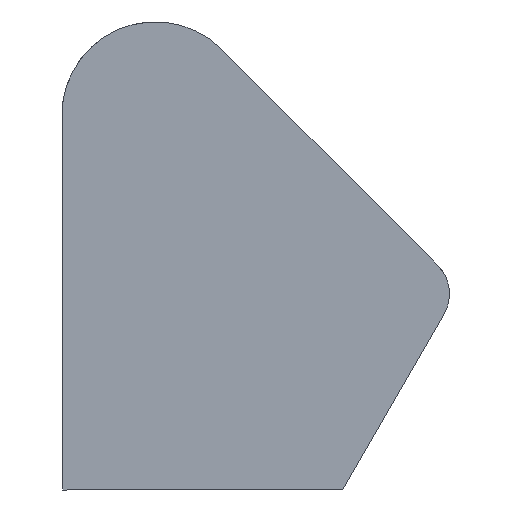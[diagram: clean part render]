
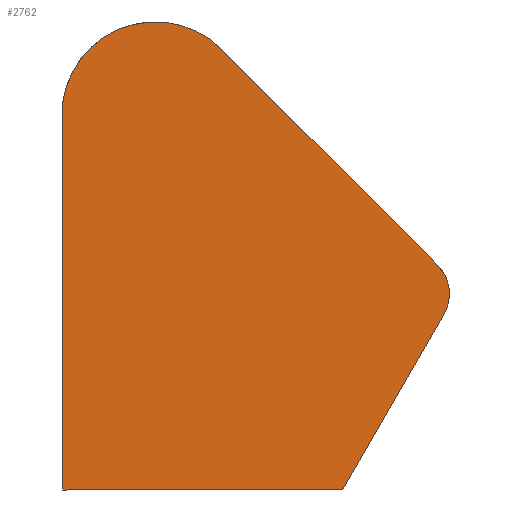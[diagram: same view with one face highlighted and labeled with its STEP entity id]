
A CAD part, left-side view. The second image highlights one B-rep face of the part: STEP entity #2762.
In plain terms, the highlighted planar face has unit normal (-1, 0, 0).
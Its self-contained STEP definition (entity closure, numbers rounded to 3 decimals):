
#38 = DIRECTION ( 'NONE',  ( -1., 0., 0. ) ) ;
#246 = ORIENTED_EDGE ( 'NONE', *, *, #4107, .F. ) ;
#366 = VECTOR ( 'NONE', #1842, 1000. ) ;
#404 = LINE ( 'NONE', #643, #4027 ) ;
#428 = PLANE ( 'NONE',  #4229 ) ;
#468 = FACE_OUTER_BOUND ( 'NONE', #2359, .T. ) ;
#643 = CARTESIAN_POINT ( 'NONE',  ( -70., -16.263, 16.264 ) ) ;
#715 = AXIS2_PLACEMENT_3D ( 'NONE', #4046, #722, #4535 ) ;
#721 = AXIS2_PLACEMENT_3D ( 'NONE', #2133, #38, #2488 ) ;
#722 = DIRECTION ( 'NONE',  ( -1., 0., 0. ) ) ;
#839 = CARTESIAN_POINT ( 'NONE',  ( -70., -74.282, -42.887 ) ) ;
#946 = VERTEX_POINT ( 'NONE', #2024 ) ;
#1053 = VERTEX_POINT ( 'NONE', #2301 ) ;
#1127 = CARTESIAN_POINT ( 'NONE',  ( -70., 0., 0. ) ) ;
#1434 = EDGE_CURVE ( 'NONE', #3156, #1053, #4101, .T. ) ;
#1482 = DIRECTION ( 'NONE',  ( 0., 0., 1. ) ) ;
#1497 = VERTEX_POINT ( 'NONE', #2427 ) ;
#1498 = EDGE_CURVE ( 'NONE', #3156, #1497, #3993, .T. ) ;
#1521 = ORIENTED_EDGE ( 'NONE', *, *, #1434, .F. ) ;
#1715 = VERTEX_POINT ( 'NONE', #3024 ) ;
#1842 = DIRECTION ( 'NONE',  ( 0., 1., 0. ) ) ;
#1848 = EDGE_CURVE ( 'NONE', #946, #3341, #3688, .T. ) ;
#1953 = CARTESIAN_POINT ( 'NONE',  ( -70., -45.782, -92. ) ) ;
#2024 = CARTESIAN_POINT ( 'NONE',  ( -70., -16.263, 16.263 ) ) ;
#2057 = VECTOR ( 'NONE', #4360, 1000. ) ;
#2079 = EDGE_CURVE ( 'NONE', #946, #1715, #404, .T. ) ;
#2119 = ORIENTED_EDGE ( 'NONE', *, *, #1848, .T. ) ;
#2133 = CARTESIAN_POINT ( 'NONE',  ( -70., -62.2, -43.812 ) ) ;
#2212 = CARTESIAN_POINT ( 'NONE',  ( -70., 22.804, 0. ) ) ;
#2291 = CARTESIAN_POINT ( 'NONE',  ( -70., -45.782, -91.75 ) ) ;
#2301 = CARTESIAN_POINT ( 'NONE',  ( -70., 22.804, -92. ) ) ;
#2359 = EDGE_LOOP ( 'NONE', ( #2119, #4123, #1521, #3480, #246, #2780, #2700 ) ) ;
#2427 = CARTESIAN_POINT ( 'NONE',  ( -70., -45.998, -91.875 ) ) ;
#2488 = DIRECTION ( 'NONE',  ( 0., 0., 1. ) ) ;
#2564 = CARTESIAN_POINT ( 'NONE',  ( -70., 0., -92. ) ) ;
#2623 = DIRECTION ( 'NONE',  ( -1., 0., 0. ) ) ;
#2700 = ORIENTED_EDGE ( 'NONE', *, *, #2079, .F. ) ;
#2762 = ADVANCED_FACE ( 'NONE', ( #468 ), #428, .T. ) ;
#2766 = CARTESIAN_POINT ( 'NONE',  ( -70., 22.804, 3. ) ) ;
#2780 = ORIENTED_EDGE ( 'NONE', *, *, #3855, .T. ) ;
#2899 = LINE ( 'NONE', #839, #2057 ) ;
#2943 = LINE ( 'NONE', #2212, #4472 ) ;
#3024 = CARTESIAN_POINT ( 'NONE',  ( -70., -69.272, -36.741 ) ) ;
#3126 = DIRECTION ( 'NONE',  ( 0., -0.707, -0.707 ) ) ;
#3156 = VERTEX_POINT ( 'NONE', #1953 ) ;
#3259 = DIRECTION ( 'NONE',  ( 0., 0., 1. ) ) ;
#3341 = VERTEX_POINT ( 'NONE', #2766 ) ;
#3480 = ORIENTED_EDGE ( 'NONE', *, *, #1498, .T. ) ;
#3586 = DIRECTION ( 'NONE',  ( -1., 0., 0. ) ) ;
#3597 = VERTEX_POINT ( 'NONE', #4081 ) ;
#3655 = DIRECTION ( 'NONE',  ( 0., 0., 1. ) ) ;
#3688 = CIRCLE ( 'NONE', #715, 23. ) ;
#3855 = EDGE_CURVE ( 'NONE', #3597, #1715, #3992, .T. ) ;
#3992 = CIRCLE ( 'NONE', #721, 10. ) ;
#3993 = CIRCLE ( 'NONE', #4426, 0.25 ) ;
#4027 = VECTOR ( 'NONE', #3126, 1000. ) ;
#4046 = CARTESIAN_POINT ( 'NONE',  ( -70., 0., 0. ) ) ;
#4081 = CARTESIAN_POINT ( 'NONE',  ( -70., -70.861, -48.812 ) ) ;
#4101 = LINE ( 'NONE', #2564, #366 ) ;
#4107 = EDGE_CURVE ( 'NONE', #3597, #1497, #2899, .T. ) ;
#4123 = ORIENTED_EDGE ( 'NONE', *, *, #4467, .F. ) ;
#4229 = AXIS2_PLACEMENT_3D ( 'NONE', #1127, #3586, #1482 ) ;
#4360 = DIRECTION ( 'NONE',  ( 0., 0.5, -0.866 ) ) ;
#4426 = AXIS2_PLACEMENT_3D ( 'NONE', #2291, #2623, #3655 ) ;
#4467 = EDGE_CURVE ( 'NONE', #1053, #3341, #2943, .T. ) ;
#4472 = VECTOR ( 'NONE', #3259, 1000. ) ;
#4535 = DIRECTION ( 'NONE',  ( 0., 0., 1. ) ) ;
